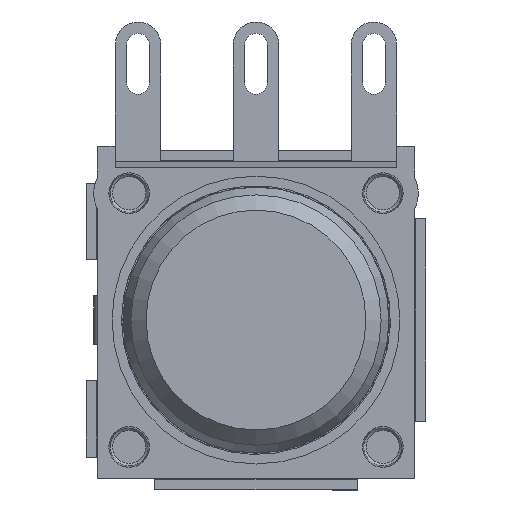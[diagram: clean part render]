
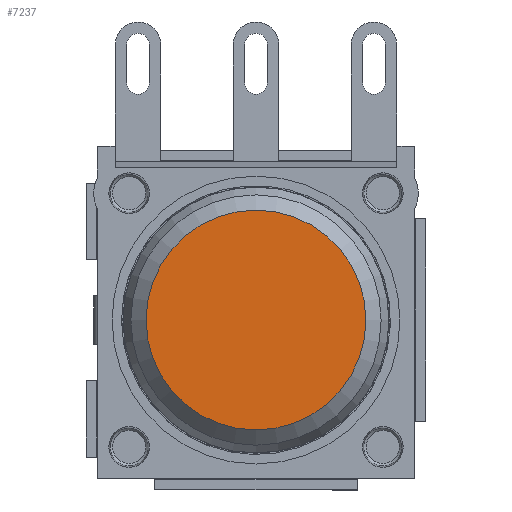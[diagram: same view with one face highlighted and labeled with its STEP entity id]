
A CAD part, left-side view. The second image highlights one B-rep face of the part: STEP entity #7237.
In plain terms, the highlighted planar face has unit normal (-1, 0, 0) as drawn and (0, 0, 1) by its records, which use the part's own axes.
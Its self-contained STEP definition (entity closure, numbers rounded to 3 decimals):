
#283=PLANE('',#8300);
#1884=CIRCLE('',#8301,4.334);
#3628=ORIENTED_EDGE('',*,*,#4811,.T.);
#4811=EDGE_CURVE('',#5563,#5563,#1884,.T.);
#5563=VERTEX_POINT('',#12655);
#6220=EDGE_LOOP('',(#3628));
#6749=FACE_BOUND('',#6220,.T.);
#7237=ADVANCED_FACE('',(#6749),#283,.T.);
#8300=AXIS2_PLACEMENT_3D('',#12653,#10069,#10070);
#8301=AXIS2_PLACEMENT_3D('',#12654,#10071,#10072);
#10069=DIRECTION('',(0.,0.,1.));
#10070=DIRECTION('',(1.,0.,0.));
#10071=DIRECTION('',(0.,0.,1.));
#10072=DIRECTION('',(1.,0.,0.));
#12653=CARTESIAN_POINT('',(0.,0.,1.4));
#12654=CARTESIAN_POINT('',(0.,0.,1.4));
#12655=CARTESIAN_POINT('',(4.334,0.,1.4));
